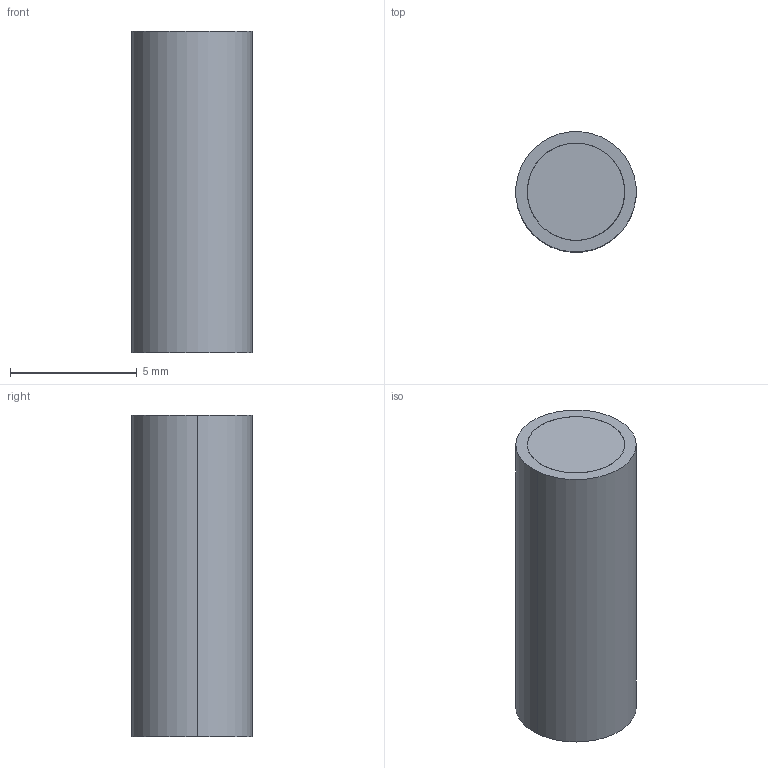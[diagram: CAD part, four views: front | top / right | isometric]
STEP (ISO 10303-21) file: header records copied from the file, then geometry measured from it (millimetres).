
FILE_DESCRIPTION (( 'STEP AP203' ), '1' );
FILE_NAME ('ABS1850.STEP', '2018-08-02T12:49:01', ( '' ), ( '' ), 'SwSTEP 2.0', 'SolidWorks 2015', '' );
FILE_SCHEMA (( 'CONFIG_CONTROL_DESIGN' ));
Length unit declared in the file: inch
Products named in the file (1): ABS1850
Bounding box: 4.75 x 4.75 x 12.7 mm (x, y, z)
Volume: 226.2 mm3; surface area: 532.7 mm2
Topology: 2 solids, 2 shells, 10 faces, 18 edges, 12 vertices
Faces by surface type: cylinder 6, plane 4
Entity records: 335 total; most frequent: DIRECTION 52, CARTESIAN_POINT 41, ORIENTED_EDGE 36, AXIS2_PLACEMENT_3D 23, EDGE_CURVE 18, CIRCLE 12, EDGE_LOOP 12, VERTEX_POINT 12
